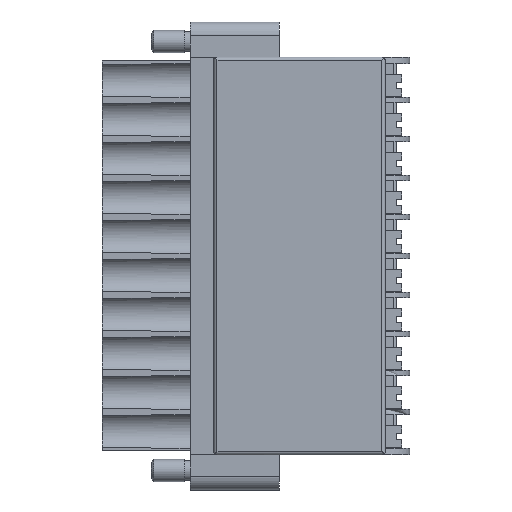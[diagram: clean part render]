
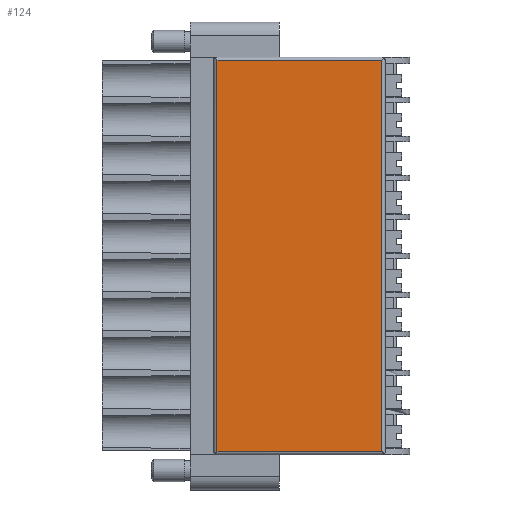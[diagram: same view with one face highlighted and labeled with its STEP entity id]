
A CAD part, front view. The second image highlights one B-rep face of the part: STEP entity #124.
In plain terms, the highlighted planar face has unit normal (0, -1, 0).
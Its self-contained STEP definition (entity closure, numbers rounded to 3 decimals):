
#124 = ADVANCED_FACE( '', ( #1548 ), #1549, .T. );
#1548 = FACE_OUTER_BOUND( '', #4399, .T. );
#1549 = PLANE( '', #4400 );
#4399 = EDGE_LOOP( '', ( #7527, #7528, #7529, #7530 ) );
#4400 = AXIS2_PLACEMENT_3D( '', #7531, #7532, #7533 );
#7527 = ORIENTED_EDGE( '', *, *, #19188, .F. );
#7528 = ORIENTED_EDGE( '', *, *, #19182, .F. );
#7529 = ORIENTED_EDGE( '', *, *, #19184, .T. );
#7530 = ORIENTED_EDGE( '', *, *, #19174, .T. );
#7531 = CARTESIAN_POINT( '', ( 20., -2.4, -17.55 ) );
#7532 = DIRECTION( '', ( 0., -1., 0. ) );
#7533 = DIRECTION( '', ( 0., 0., -1. ) );
#19174 = EDGE_CURVE( '', #23195, #23193, #23196, .T. );
#19182 = EDGE_CURVE( '', #23209, #23211, #23212, .T. );
#19184 = EDGE_CURVE( '', #23209, #23195, #23214, .T. );
#19188 = EDGE_CURVE( '', #23211, #23193, #23220, .T. );
#23193 = VERTEX_POINT( '', #29885 );
#23195 = VERTEX_POINT( '', #29887 );
#23196 = LINE( '', #29888, #29889 );
#23209 = VERTEX_POINT( '', #29904 );
#23211 = VERTEX_POINT( '', #29906 );
#23212 = LINE( '', #29907, #29908 );
#23214 = LINE( '', #29910, #29911 );
#23220 = LINE( '', #29918, #29919 );
#29885 = CARTESIAN_POINT( '', ( 2.4, -2.4, -17.55 ) );
#29887 = CARTESIAN_POINT( '', ( 2.4, -2.4, 17.55 ) );
#29888 = CARTESIAN_POINT( '', ( 2.4, -2.4, 17.9 ) );
#29889 = VECTOR( '', #40009, 1000. );
#29904 = CARTESIAN_POINT( '', ( 17.2, -2.4, 17.55 ) );
#29906 = CARTESIAN_POINT( '', ( 17.2, -2.4, -17.55 ) );
#29907 = CARTESIAN_POINT( '', ( 17.2, -2.4, 17.9 ) );
#29908 = VECTOR( '', #40027, 1000. );
#29910 = CARTESIAN_POINT( '', ( 20., -2.4, 17.55 ) );
#29911 = VECTOR( '', #40031, 1000. );
#29918 = CARTESIAN_POINT( '', ( 20., -2.4, -17.55 ) );
#29919 = VECTOR( '', #40039, 1000. );
#40009 = DIRECTION( '', ( 0., 0., -1. ) );
#40027 = DIRECTION( '', ( 0., 0., -1. ) );
#40031 = DIRECTION( '', ( -1., 0., 0. ) );
#40039 = DIRECTION( '', ( -1., 0., 0. ) );
